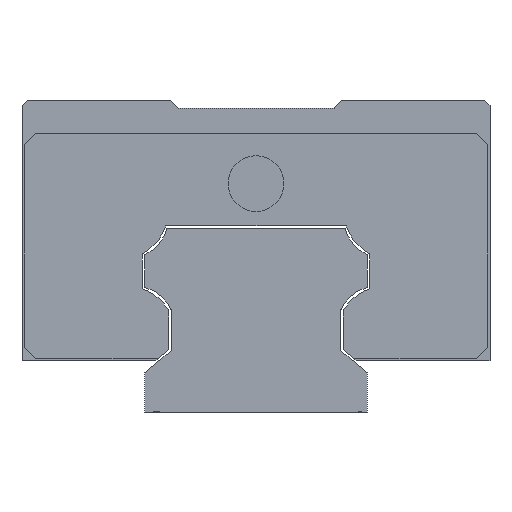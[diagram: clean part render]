
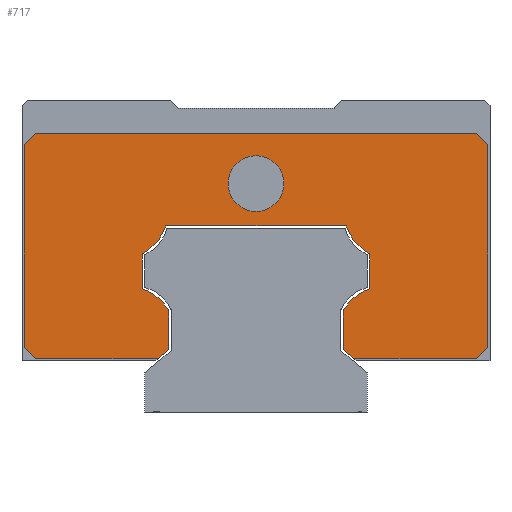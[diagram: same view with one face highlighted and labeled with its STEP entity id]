
A CAD part, left-side view. The second image highlights one B-rep face of the part: STEP entity #717.
In plain terms, the highlighted planar face has unit normal (-1, 0, 0).
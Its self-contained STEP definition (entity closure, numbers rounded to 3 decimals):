
#548=FACE_BOUND('',#1007,.T.);
#549=FACE_BOUND('',#1008,.T.);
#717=ADVANCED_FACE('',(#548,#549),#839,.F.);
#839=PLANE('',#2689);
#1007=EDGE_LOOP('',(#1362));
#1008=EDGE_LOOP('',(#1363,#1364,#1365,#1366,#1367,#1368,#1369,#1370,#1371,
#1372,#1373,#1374,#1375,#1376,#1377,#1378,#1379,#1380,#1381,#1382));
#1180=CIRCLE('',#2673,4.5);
#1181=CIRCLE('',#2676,4.5);
#1182=CIRCLE('',#2679,4.5);
#1183=CIRCLE('',#2682,4.5);
#1184=CIRCLE('',#2688,2.5);
#1362=ORIENTED_EDGE('',*,*,#2095,.F.);
#1363=ORIENTED_EDGE('',*,*,#2093,.F.);
#1364=ORIENTED_EDGE('',*,*,#2096,.T.);
#1365=ORIENTED_EDGE('',*,*,#2088,.F.);
#1366=ORIENTED_EDGE('',*,*,#2087,.F.);
#1367=ORIENTED_EDGE('',*,*,#2080,.F.);
#1368=ORIENTED_EDGE('',*,*,#2074,.F.);
#1369=ORIENTED_EDGE('',*,*,#2073,.F.);
#1370=ORIENTED_EDGE('',*,*,#2065,.F.);
#1371=ORIENTED_EDGE('',*,*,#2064,.F.);
#1372=ORIENTED_EDGE('',*,*,#2056,.F.);
#1373=ORIENTED_EDGE('',*,*,#2055,.F.);
#1374=ORIENTED_EDGE('',*,*,#2047,.F.);
#1375=ORIENTED_EDGE('',*,*,#2045,.F.);
#1376=ORIENTED_EDGE('',*,*,#2040,.F.);
#1377=ORIENTED_EDGE('',*,*,#2032,.F.);
#1378=ORIENTED_EDGE('',*,*,#2097,.T.);
#1379=ORIENTED_EDGE('',*,*,#2028,.F.);
#1380=ORIENTED_EDGE('',*,*,#2098,.T.);
#1381=ORIENTED_EDGE('',*,*,#2024,.F.);
#1382=ORIENTED_EDGE('',*,*,#2099,.T.);
#1828=VERTEX_POINT('',#3521);
#1829=VERTEX_POINT('',#3523);
#1832=VERTEX_POINT('',#3530);
#1833=VERTEX_POINT('',#3532);
#1836=VERTEX_POINT('',#3539);
#1837=VERTEX_POINT('',#3541);
#1838=VERTEX_POINT('',#3545);
#1844=VERTEX_POINT('',#3559);
#1849=VERTEX_POINT('',#3571);
#1850=VERTEX_POINT('',#3575);
#1855=VERTEX_POINT('',#3588);
#1856=VERTEX_POINT('',#3592);
#1861=VERTEX_POINT('',#3605);
#1862=VERTEX_POINT('',#3609);
#1867=VERTEX_POINT('',#3622);
#1868=VERTEX_POINT('',#3626);
#1872=VERTEX_POINT('',#3636);
#1878=VERTEX_POINT('',#3650);
#1882=VERTEX_POINT('',#3659);
#1883=VERTEX_POINT('',#3661);
#1884=VERTEX_POINT('',#3665);
#2024=EDGE_CURVE('',#1828,#1829,#2297,.T.);
#2028=EDGE_CURVE('',#1832,#1833,#2301,.T.);
#2032=EDGE_CURVE('',#1836,#1837,#2305,.T.);
#2040=EDGE_CURVE('',#1837,#1838,#2313,.T.);
#2045=EDGE_CURVE('',#1838,#1844,#2318,.T.);
#2047=EDGE_CURVE('',#1844,#1849,#1180,.T.);
#2055=EDGE_CURVE('',#1849,#1850,#2326,.T.);
#2056=EDGE_CURVE('',#1850,#1855,#1181,.T.);
#2064=EDGE_CURVE('',#1855,#1856,#2334,.T.);
#2065=EDGE_CURVE('',#1856,#1861,#1182,.T.);
#2073=EDGE_CURVE('',#1861,#1862,#2342,.T.);
#2074=EDGE_CURVE('',#1862,#1867,#1183,.T.);
#2080=EDGE_CURVE('',#1867,#1868,#2348,.T.);
#2087=EDGE_CURVE('',#1868,#1872,#2355,.T.);
#2088=EDGE_CURVE('',#1872,#1878,#2356,.T.);
#2093=EDGE_CURVE('',#1882,#1883,#2361,.T.);
#2095=EDGE_CURVE('',#1884,#1884,#1184,.T.);
#2096=EDGE_CURVE('',#1882,#1878,#2363,.T.);
#2097=EDGE_CURVE('',#1836,#1833,#2364,.T.);
#2098=EDGE_CURVE('',#1832,#1829,#2365,.T.);
#2099=EDGE_CURVE('',#1828,#1883,#2366,.T.);
#2297=LINE('',#3522,#2481);
#2301=LINE('',#3531,#2485);
#2305=LINE('',#3540,#2489);
#2313=LINE('',#3556,#2497);
#2318=LINE('',#3566,#2502);
#2326=LINE('',#3585,#2510);
#2334=LINE('',#3602,#2518);
#2342=LINE('',#3619,#2526);
#2348=LINE('',#3633,#2532);
#2355=LINE('',#3647,#2539);
#2356=LINE('',#3649,#2540);
#2361=LINE('',#3660,#2545);
#2363=LINE('',#3666,#2547);
#2364=LINE('',#3667,#2548);
#2365=LINE('',#3668,#2549);
#2366=LINE('',#3669,#2550);
#2481=VECTOR('',#2898,1.);
#2485=VECTOR('',#2904,1.);
#2489=VECTOR('',#2910,1.);
#2497=VECTOR('',#2920,1.);
#2502=VECTOR('',#2927,1.);
#2510=VECTOR('',#2943,1.);
#2518=VECTOR('',#2957,1.);
#2526=VECTOR('',#2971,1.);
#2532=VECTOR('',#2983,1.);
#2539=VECTOR('',#2992,1.);
#2540=VECTOR('',#2995,1.);
#2545=VECTOR('',#3002,1.);
#2547=VECTOR('',#3008,1.);
#2548=VECTOR('',#3009,1.);
#2549=VECTOR('',#3010,1.);
#2550=VECTOR('',#3011,1.);
#2673=AXIS2_PLACEMENT_3D('',#3570,#2932,#2933);
#2676=AXIS2_PLACEMENT_3D('',#3587,#2946,#2947);
#2679=AXIS2_PLACEMENT_3D('',#3604,#2960,#2961);
#2682=AXIS2_PLACEMENT_3D('',#3621,#2974,#2975);
#2688=AXIS2_PLACEMENT_3D('',#3664,#3006,#3007);
#2689=AXIS2_PLACEMENT_3D('',#3670,#3012,#3013);
#2898=DIRECTION('',(0.,-1.,0.));
#2904=DIRECTION('',(0.,0.,-1.));
#2910=DIRECTION('',(0.,1.,0.));
#2920=DIRECTION('',(0.,0.766,0.643));
#2927=DIRECTION('',(0.,0.,1.));
#2932=DIRECTION('',(1.,0.,0.));
#2933=DIRECTION('',(0.,1.,0.));
#2943=DIRECTION('',(0.,0.,1.));
#2946=DIRECTION('',(1.,0.,0.));
#2947=DIRECTION('',(0.,1.,0.));
#2957=DIRECTION('',(0.,1.,0.));
#2960=DIRECTION('',(1.,0.,0.));
#2961=DIRECTION('',(0.,-1.,0.));
#2971=DIRECTION('',(0.,0.,-1.));
#2974=DIRECTION('',(1.,0.,0.));
#2975=DIRECTION('',(0.,-1.,0.));
#2983=DIRECTION('',(0.,0.,-1.));
#2992=DIRECTION('',(0.,0.766,-0.643));
#2995=DIRECTION('',(0.,1.,0.));
#3002=DIRECTION('',(0.,0.,1.));
#3006=DIRECTION('',(-1.,0.,0.));
#3007=DIRECTION('',(0.,1.,0.));
#3008=DIRECTION('',(0.,-0.707,-0.707));
#3009=DIRECTION('',(0.,-0.707,0.707));
#3010=DIRECTION('',(0.,0.707,0.707));
#3011=DIRECTION('',(0.,0.707,-0.707));
#3012=DIRECTION('',(1.,0.,0.));
#3013=DIRECTION('',(0.,0.,-1.));
#3521=CARTESIAN_POINT('',(-34.15,19.8,25.));
#3522=CARTESIAN_POINT('',(-34.15,20.8,25.));
#3523=CARTESIAN_POINT('',(-34.15,-19.8,25.));
#3530=CARTESIAN_POINT('',(-34.15,-20.8,24.));
#3531=CARTESIAN_POINT('',(-34.15,-20.8,25.));
#3532=CARTESIAN_POINT('',(-34.15,-20.8,5.8));
#3539=CARTESIAN_POINT('',(-34.15,-19.8,4.8));
#3540=CARTESIAN_POINT('',(-34.15,-20.8,4.8));
#3541=CARTESIAN_POINT('',(-34.15,-8.762,4.8));
#3545=CARTESIAN_POINT('',(-34.15,-7.816,5.593));
#3556=CARTESIAN_POINT('',(-34.15,-8.762,4.8));
#3559=CARTESIAN_POINT('',(-34.15,-7.816,9.073));
#3566=CARTESIAN_POINT('',(-34.15,-7.816,5.593));
#3570=CARTESIAN_POINT('',(-34.15,-11.722,6.839));
#3571=CARTESIAN_POINT('',(-34.15,-10.2,11.073));
#3575=CARTESIAN_POINT('',(-34.15,-10.2,14.189));
#3585=CARTESIAN_POINT('',(-34.15,-10.2,11.073));
#3587=CARTESIAN_POINT('',(-34.15,-12.357,18.139));
#3588=CARTESIAN_POINT('',(-34.15,-8.093,16.7));
#3592=CARTESIAN_POINT('',(-34.15,8.093,16.7));
#3602=CARTESIAN_POINT('',(-34.15,-8.093,16.7));
#3604=CARTESIAN_POINT('',(-34.15,12.357,18.139));
#3605=CARTESIAN_POINT('',(-34.15,10.2,14.189));
#3609=CARTESIAN_POINT('',(-34.15,10.2,11.073));
#3619=CARTESIAN_POINT('',(-34.15,10.2,14.189));
#3621=CARTESIAN_POINT('',(-34.15,11.722,6.839));
#3622=CARTESIAN_POINT('',(-34.15,7.816,9.073));
#3626=CARTESIAN_POINT('',(-34.15,7.816,5.593));
#3633=CARTESIAN_POINT('',(-34.15,7.816,9.073));
#3636=CARTESIAN_POINT('',(-34.15,8.762,4.8));
#3647=CARTESIAN_POINT('',(-34.15,7.816,5.593));
#3649=CARTESIAN_POINT('',(-34.15,8.762,4.8));
#3650=CARTESIAN_POINT('',(-34.15,19.8,4.8));
#3659=CARTESIAN_POINT('',(-34.15,20.8,5.8));
#3660=CARTESIAN_POINT('',(-34.15,20.8,4.8));
#3661=CARTESIAN_POINT('',(-34.15,20.8,24.));
#3664=CARTESIAN_POINT('',(-34.15,0.,20.5));
#3665=CARTESIAN_POINT('',(-34.15,2.5,20.5));
#3666=CARTESIAN_POINT('',(-34.15,19.8,4.8));
#3667=CARTESIAN_POINT('',(-34.15,-20.8,5.8));
#3668=CARTESIAN_POINT('',(-34.15,-19.8,25.));
#3669=CARTESIAN_POINT('',(-34.15,20.8,24.));
#3670=CARTESIAN_POINT('',(-34.15,-11.722,6.839));
